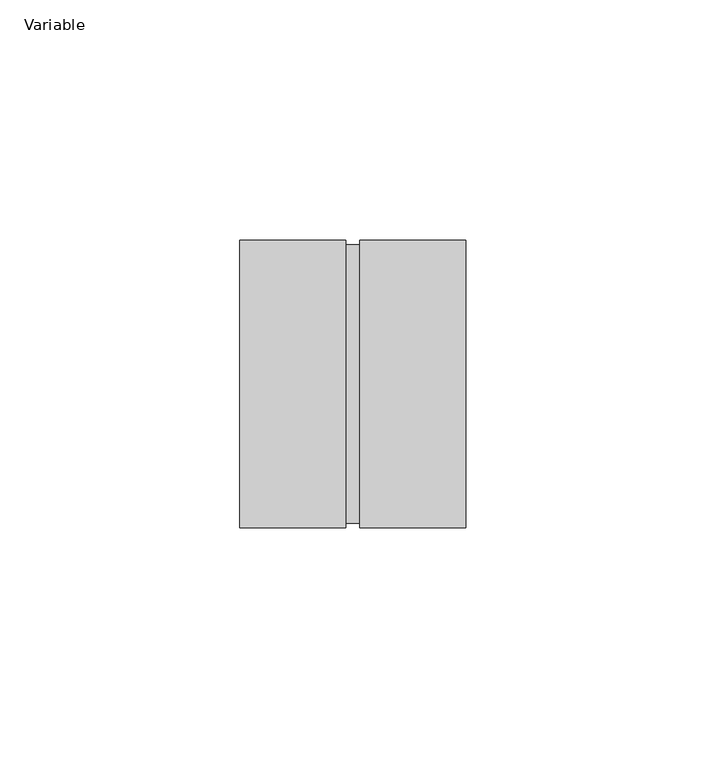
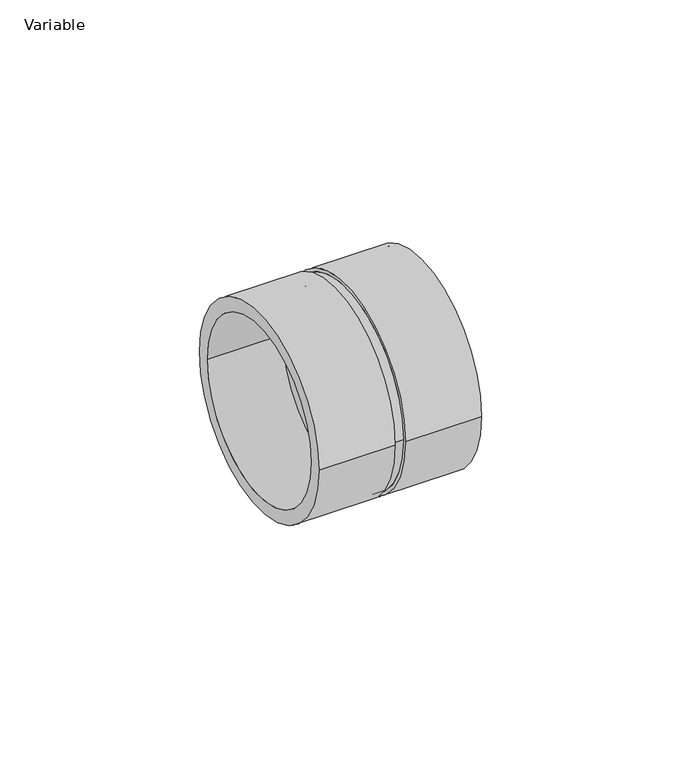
"""IFC4 building model written with IfcOpenShell, lengths in millimetres: pipe fitting geometry, AliaxisFR_Friaphon_RepairCoupling_FR : Variable."""

from ifc_helpers import new_model, si_unit, point, frame, origin, origin_2d, place, context, project, spatial, circle_curve, trimmed, segment, composite_curve, outline, extrude, source, transform, mapped, element, save


def variable_ff1dcaa9(model_context):
    return source(origin(), model_context, "Body", "SweptSolid", [
        extrude(outline(composite_curve([segment(trimmed(circle_curve(origin_2d(), 30.0), [point((-30.0, 0.0))], [point((30.0, 0.0))], False, "CARTESIAN"), True, "CONTINUOUS"), segment(trimmed(circle_curve(origin_2d(), 30.0), [point((30.0, 0.0))], [point((-30.0, 0.0))], False, "CARTESIAN"), True, "CONTINUOUS")], self_intersect=False), holes=[composite_curve([segment(trimmed(circle_curve(origin_2d(), 29.0), [point((-29.0, 0.0))], [point((29.0, 0.0))], True, "CARTESIAN"), True, "CONTINUOUS"), segment(trimmed(circle_curve(origin_2d(), 29.0), [point((29.0, 0.0))], [point((-29.0, 0.0))], True, "CARTESIAN"), True, "CONTINUOUS")], self_intersect=False)]), frame((25.0, 0.0, 0.0), z_axis=(1.0, 0.0, 0.0), x_axis=(0.0, 1.0, 0.0)), (0.0, 0.0, 1.0), 22.0),
        extrude(outline(composite_curve([segment(trimmed(circle_curve(origin_2d(), 29.0), [point((-29.0, 0.0))], [point((29.0, 0.0))], False, "CARTESIAN"), True, "CONTINUOUS"), segment(trimmed(circle_curve(origin_2d(), 29.0), [point((29.0, 0.0))], [point((-29.0, 0.0))], False, "CARTESIAN"), True, "CONTINUOUS")], self_intersect=False)), frame((22.0, 0.0, 0.0), z_axis=(1.0, 0.0, 0.0), x_axis=(0.0, 1.0, 0.0)), (0.0, 0.0, 1.0), 3.0),
        extrude(outline(composite_curve([segment(trimmed(circle_curve(origin_2d(), 30.0), [point((-30.0, 0.0))], [point((30.0, 0.0))], False, "CARTESIAN"), True, "CONTINUOUS"), segment(trimmed(circle_curve(origin_2d(), 30.0), [point((30.0, 0.0))], [point((-30.0, 0.0))], False, "CARTESIAN"), True, "CONTINUOUS")], self_intersect=False), holes=[composite_curve([segment(trimmed(circle_curve(origin_2d(), 26.0), [point((-26.0, 0.0))], [point((26.0, 0.0))], True, "CARTESIAN"), True, "CONTINUOUS"), segment(trimmed(circle_curve(origin_2d(), 26.0), [point((26.0, 0.0))], [point((-26.0, 0.0))], True, "CARTESIAN"), True, "CONTINUOUS")], self_intersect=False)]), frame((0.0, 0.0, 0.0), z_axis=(1.0, 0.0, 0.0), x_axis=(0.0, 1.0, 0.0)), (0.0, 0.0, 1.0), 22.0),
    ])


if __name__ == "__main__":
    model = new_model("IFC4")
    model_context = context("Model", 3, world=origin())
    ifc_project = project(units=[si_unit("LENGTHUNIT", "METRE", prefix="MILLI")], contexts=[model_context])
    site = spatial("IfcSite", under=ifc_project)
    building = spatial("IfcBuilding", under=site)
    placement = place(None, origin())
    variable_shape = variable_ff1dcaa9(model_context)
    element("IfcPipeFitting", 1, ObjectType="AliaxisFR_Friaphon_RepairCoupling_FR : Variable", at=placement, inside=building, context=model_context, shape_type="MappedRepresentation", body=[
        mapped(variable_shape, transform((0.0, 0.0, 0.0), x_axis=(1.0, 0.0, 0.0), y_axis=(0.0, 1.0, 0.0), z_axis=(0.0, 0.0, 1.0))),
    ])
    save(model, "model.ifc")
